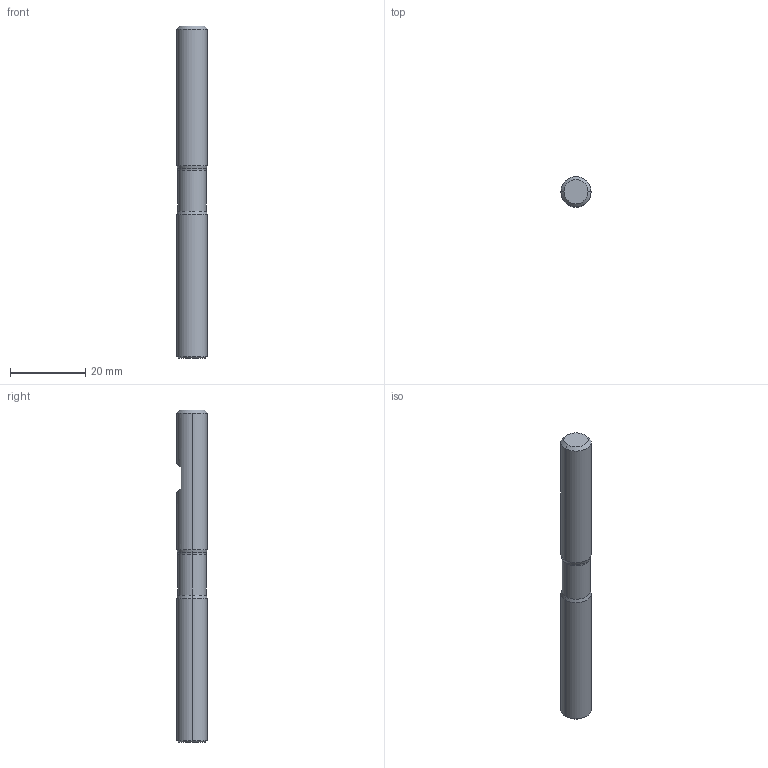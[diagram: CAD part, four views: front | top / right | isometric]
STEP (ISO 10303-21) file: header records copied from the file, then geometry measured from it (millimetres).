
FILE_DESCRIPTION (( 'STEP AP214' ), '1' );
FILE_NAME ('723.081.10_3D-model.step', '2022-02-19T07:48:48', ( '' ), ( '' ), 'SwSTEP 2.0', 'SolidWorks 2020', '' );
FILE_SCHEMA (( 'AUTOMOTIVE_DESIGN' ));
Length unit declared in the file: millimetre
Products named in the file (3): CUT-3D^Baugr54; NOCUT-3D^Baugr54; 723.081.10_3D-model
Assembly tree (2 placements, depth 2):
  723.081.10_3D-model
    CUT-3D^Baugr54
    NOCUT-3D^Baugr54
Bounding box: 8 x 8 x 88 mm (x, y, z)
Volume: 4315.1 mm3; surface area: 2378.1 mm2
Topology: 2 solids, 2 shells, 23 faces, 42 edges, 24 vertices
Faces by surface type: cone 8, plane 7, cylinder 6, torus 2
Entity records: 684 total; most frequent: DIRECTION 124, CARTESIAN_POINT 103, ORIENTED_EDGE 84, AXIS2_PLACEMENT_3D 53, EDGE_CURVE 42, EDGE_LOOP 24, VERTEX_POINT 24, FACE_OUTER_BOUND 23
